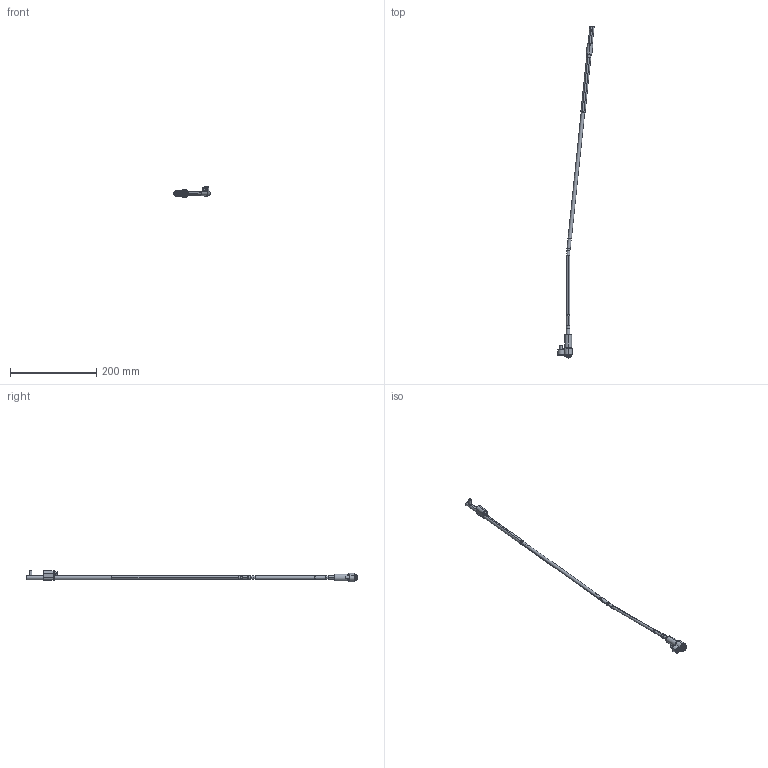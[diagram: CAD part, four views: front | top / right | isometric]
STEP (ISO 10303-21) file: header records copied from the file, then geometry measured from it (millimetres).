
FILE_DESCRIPTION (( 'STEP AP214' ), '1' );
FILE_NAME ('WL080125-INJ 6°.STEP', '2021-03-19T15:31:54', ( '' ), ( '' ), 'SwSTEP 2.0', 'SolidWorks 2019', '' );
FILE_SCHEMA (( 'AUTOMOTIVE_DESIGN' ));
Length unit declared in the file: millimetre
Products named in the file (17): WL080100-B1_WL0800FF-1; Web-WL08-A3; Web-WP08-1; 1DIN912545_DIN 912 M5 x 50 --- 50C; WL080100-B_WL0800FF; WL080125-INJ 6°; WL080100-D; Web-WL08-A1; 1DIN912616_DIN 912 M6 x 16 --- 16C; WL080100-E; Web-WL08-F00.SLDPRT; Web-WL08-A2; WL080100-C; Web-WL08XX-A7_OFF-WL080125-6; 9DR2206-TOR; Web-WL08-F01; 3IMAN4X2-150_con sello
Assembly tree (16 placements, depth 3):
  WL080125-INJ 6°
    Web-WP08-1
    Web-WL08XX-A7_OFF-WL080125-6
    Web-WL08-A3
    Web-WL08-A2
    Web-WL08-A1
    WL080100-D
    WL080100-C
    WL080100-B_WL0800FF
      WL080100-B1_WL0800FF-1
      3IMAN4X2-150_con sello
    WL080100-E
    9DR2206-TOR
    Web-WL08-F00.SLDPRT
      Web-WL08-F01
      1DIN912545_DIN 912 M5 x 50 --- 50C
      1DIN912616_DIN 912 M6 x 16 --- 16C
Bounding box: 84.07 x 769.64 x 26.9 mm (x, y, z)
Volume: 55052.7 mm3; surface area: 34318.7 mm2
Topology: 14 solids, 15 shells, 423 faces, 888 edges, 516 vertices
Faces by surface type: plane 132, cylinder 127, cone 116, torus 48
Entity records: 13492 total; most frequent: DIRECTION 2218, CARTESIAN_POINT 2045, ORIENTED_EDGE 1756, AXIS2_PLACEMENT_3D 921, EDGE_CURVE 878, VERTEX_POINT 516, CIRCLE 476, EDGE_LOOP 468
